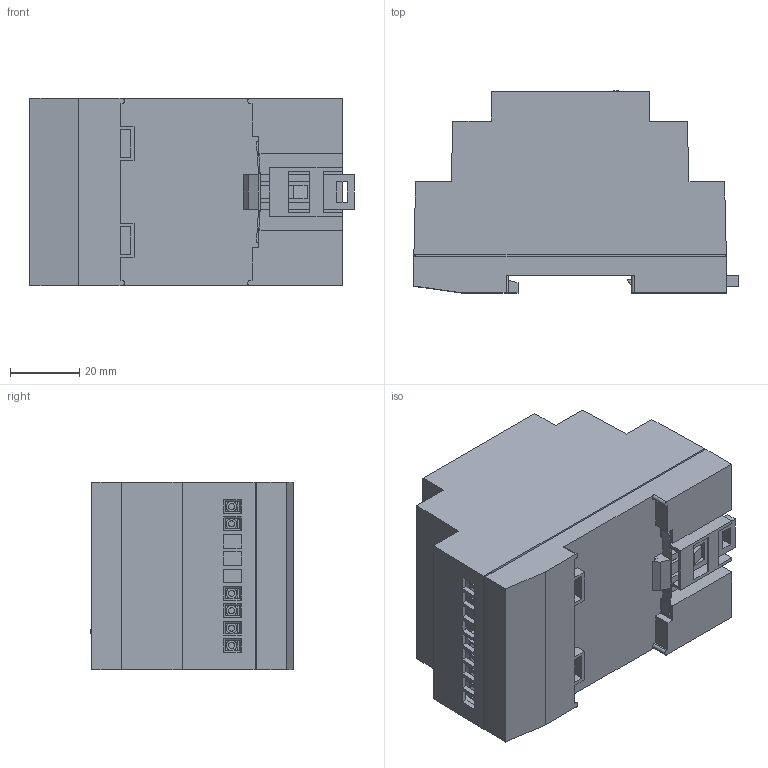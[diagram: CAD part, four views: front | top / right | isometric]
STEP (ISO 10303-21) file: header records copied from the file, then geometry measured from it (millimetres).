
FILE_DESCRIPTION (( 'STEP AP214' ), '1' );
FILE_NAME ('3D Ìîäåëü ÁÏ30-Ä3.STEP', '2015-09-11T08:49:03', ( '' ), ( '' ), 'SwSTEP 2.0', 'SolidWorks 2013', '' );
FILE_SCHEMA (( 'AUTOMOTIVE_DESIGN' ));
Length unit declared in the file: millimetre
Products named in the file (7): Êëåììà íèçêàÿ_11õ8õ5ìì; 椯鴀殣罻; ﾈ淸韭瑣ⅱ; Çàùåëêà(Ä); Êîðïóñ Ä3-5; 3D Ìîäåëü ÁÏ30-Ä3; ðåãóëÿòîð
Assembly tree (11 placements, depth 2):
  3D Ìîäåëü ÁÏ30-Ä3
    Êîðïóñ Ä3-5
    Çàùåëêà(Ä)
    ﾈ淸韭瑣ⅱ
    椯鴀殣罻
    Êëåììà íèçêàÿ_11õ8õ5ìì  x6
    ðåãóëÿòîð
Bounding box: 93.4 x 58.3 x 54 mm (x, y, z)
Volume: 168274.6 mm3; surface area: 44978.2 mm2
Topology: 11 solids, 11 shells, 1972 faces, 5513 edges, 3666 vertices
Faces by surface type: plane 1863, cylinder 101, bspline 6, sphere 2
Entity records: 73791 total; most frequent: CARTESIAN_POINT 10717, ORIENTED_EDGE 9986, DIRECTION 8655, EDGE_CURVE 4993, LINE 4847, VECTOR 4847, VERTEX_POINT 3326, EDGE_LOOP 1925
